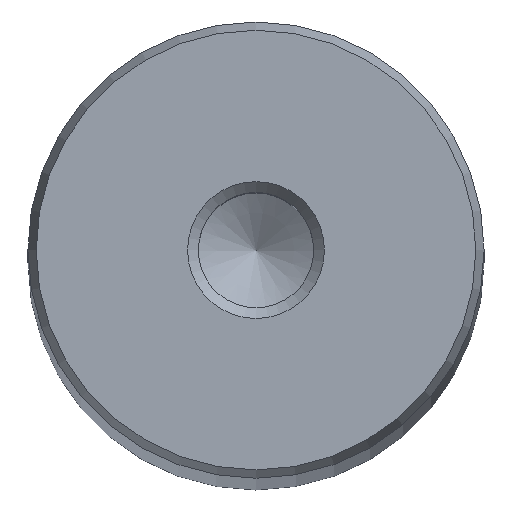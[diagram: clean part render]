
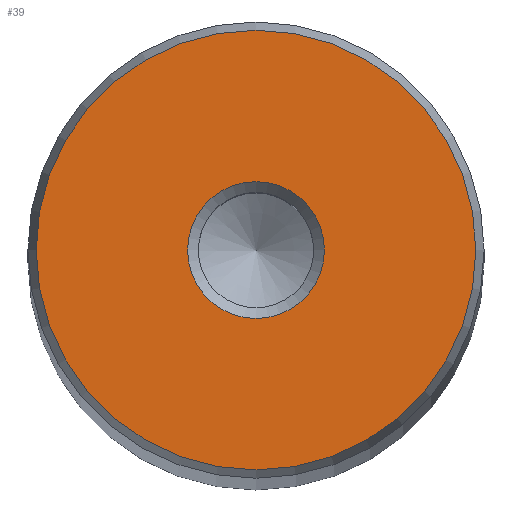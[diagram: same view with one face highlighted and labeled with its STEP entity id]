
A CAD part, top view. The second image highlights one B-rep face of the part: STEP entity #39.
In plain terms, the highlighted planar face has unit normal (0, 0, 1).
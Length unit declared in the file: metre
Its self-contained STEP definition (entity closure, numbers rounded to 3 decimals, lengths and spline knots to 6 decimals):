
#39 = ADVANCED_FACE( '', ( #84, #85 ), #86, .T. );
#84 = FACE_OUTER_BOUND( '', #143, .T. );
#85 = FACE_BOUND( '', #144, .T. );
#86 = PLANE( '', #145 );
#143 = EDGE_LOOP( '', ( #198 ) );
#144 = EDGE_LOOP( '', ( #199 ) );
#145 = AXIS2_PLACEMENT_3D( '', #200, #201, #202 );
#198 = ORIENTED_EDGE( '', *, *, #271, .T. );
#199 = ORIENTED_EDGE( '', *, *, #273, .T. );
#200 = CARTESIAN_POINT( '', ( 0., 0., 0.593 ) );
#201 = DIRECTION( '', ( 0., 0., 1. ) );
#202 = DIRECTION( '', ( 1., 0., 0. ) );
#271 = EDGE_CURVE( '', #299, #299, #300, .T. );
#273 = EDGE_CURVE( '', #302, #302, #303, .T. );
#299 = VERTEX_POINT( '', #336 );
#300 = CIRCLE( '', #337, 0.019272 );
#302 = VERTEX_POINT( '', #339 );
#303 = CIRCLE( '', #340, 0.006 );
#336 = CARTESIAN_POINT( '', ( 0.019272, 0., 0.593 ) );
#337 = AXIS2_PLACEMENT_3D( '', #373, #374, #375 );
#339 = CARTESIAN_POINT( '', ( 0.006, 0., 0.593 ) );
#340 = AXIS2_PLACEMENT_3D( '', #376, #377, #378 );
#373 = CARTESIAN_POINT( '', ( 0., 0., 0.593 ) );
#374 = DIRECTION( '', ( 0., 0., 1. ) );
#375 = DIRECTION( '', ( 1., 0., 0. ) );
#376 = CARTESIAN_POINT( '', ( 0., 0., 0.593 ) );
#377 = DIRECTION( '', ( 0., 0., -1. ) );
#378 = DIRECTION( '', ( 1., 0., 0. ) );
